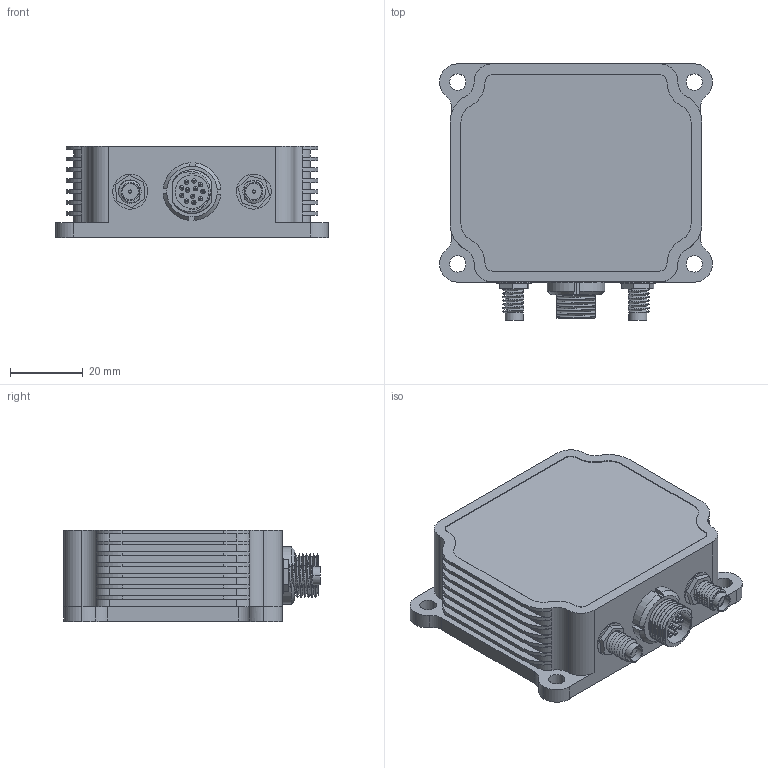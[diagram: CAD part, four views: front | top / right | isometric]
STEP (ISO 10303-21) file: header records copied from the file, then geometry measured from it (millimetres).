
FILE_DESCRIPTION (( 'STEP AP214' ), '1' );
FILE_NAME ('HI32RXX_M12_3D.STEP', '2023-10-10T02:04:00', ( '' ), ( '' ), 'SwSTEP 2.0', 'SolidWorks 2016', '' );
FILE_SCHEMA (( 'AUTOMOTIVE_DESIGN' ));
Length unit declared in the file: millimetre
Products named in the file (1): HI32RXX_M12_3D
Bounding box: 75 x 70.5 x 25.2 mm (x, y, z)
Volume: 26957.6 mm3; surface area: 34161.8 mm2
Topology: 8 solids, 12 shells, 626 faces, 1612 edges, 1020 vertices
Faces by surface type: cylinder 298, plane 228, cone 40, bspline 32, torus 28
Entity records: 40984 total; most frequent: CARTESIAN_POINT 19076, ORIENTED_EDGE 3176, DIRECTION 3105, EDGE_CURVE 1588, AXIS2_PLACEMENT_3D 1206, VERTEX_POINT 1020, LINE 693, VECTOR 693
